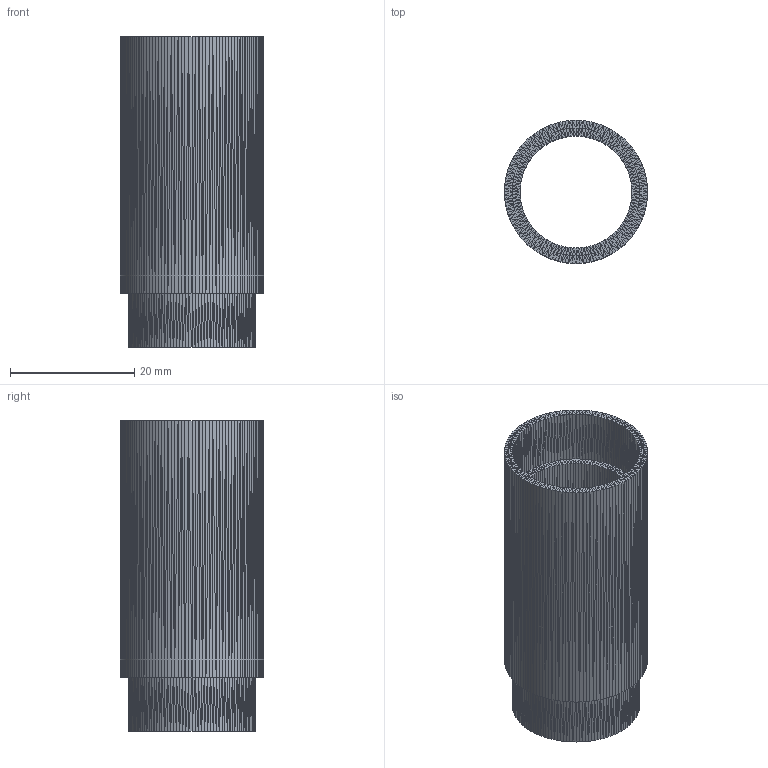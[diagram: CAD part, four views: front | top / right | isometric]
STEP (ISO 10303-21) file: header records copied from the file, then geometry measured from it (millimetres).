
FILE_DESCRIPTION((''),'2;1');
FILE_NAME('MR Main', '2026-10-19T03:58:24', (''), (''), 'ImageToStl.com STEP Converter','', '');
FILE_SCHEMA(('AUTOMOTIVE_DESIGN_CC2'));
Length unit declared in the file: millimetre
Products named in the file (1): product0
Bounding box: 23 x 23 x 50 mm (x, y, z)
Surface area: 6762.3 mm2 (no closed solid volume)
Topology: 0 solids, 2048 shells, 2048 faces, 6144 edges, 1024 vertices
Faces by surface type: plane 2048
Entity records: 47131 total; most frequent: DIRECTION 10242, ORIENTED_EDGE 6144, EDGE_CURVE 6144, LINE 6144, VECTOR 6144, AXIS2_PLACEMENT_3D 2049, FACE_SURFACE 2048, PLANE 2048
